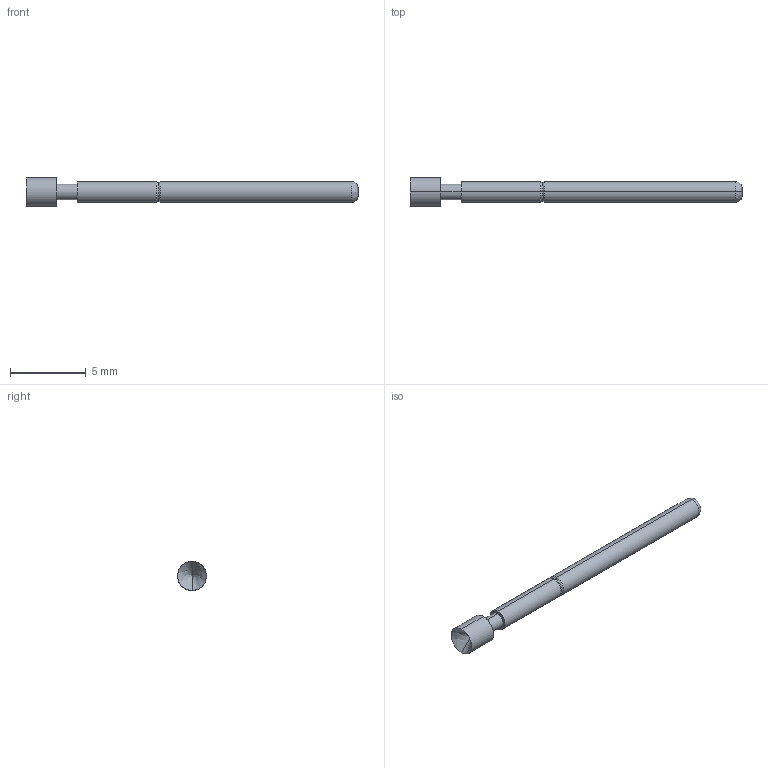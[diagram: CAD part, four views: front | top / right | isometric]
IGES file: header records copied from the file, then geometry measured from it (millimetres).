
Start section: SolidWorks IGES file using analytic representation for surfaces
Global section: file name: Z:\probe solid model mockups\Solidworks models\IGES Files\EPA-2\EPA-2A RECD.IGS; native system: SolidWorks 2006 by SolidWorks Corporation; preprocessor: SolidWorks 2006 by SolidWorks Corporation; author: tsakatani; date: 071220.161233; units: inch
Bounding box: 21.92 x 1.91 x 1.91 mm (x, y, z)
Surface area: 103.8 mm2 (no closed solid volume)
Topology: 0 solids, 0 shells, 19 faces, 160 edges, 158 vertices
Faces by surface type: revolution 10, bspline 9
